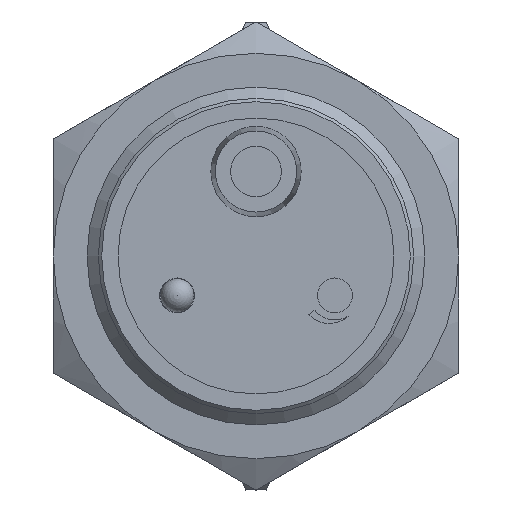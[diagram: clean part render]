
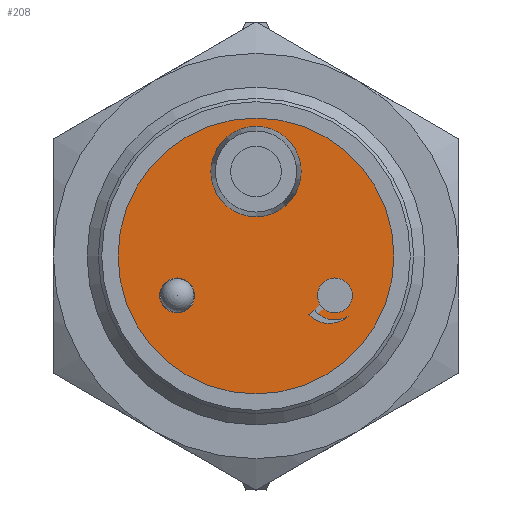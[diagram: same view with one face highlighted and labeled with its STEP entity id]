
A CAD part, left-side view. The second image highlights one B-rep face of the part: STEP entity #208.
In plain terms, the highlighted planar face has unit normal (-1, 0, 0).
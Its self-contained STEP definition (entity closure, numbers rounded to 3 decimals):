
#208 = ADVANCED_FACE( '', ( #296, #297, #298, #299, #300 ), #301, .F. );
#296 = FACE_BOUND( '', #426, .T. );
#297 = FACE_BOUND( '', #427, .T. );
#298 = FACE_OUTER_BOUND( '', #428, .T. );
#299 = FACE_BOUND( '', #429, .T. );
#300 = FACE_BOUND( '', #430, .T. );
#301 = PLANE( '', #431 );
#426 = EDGE_LOOP( '', ( #708 ) );
#427 = EDGE_LOOP( '', ( #709, #710, #711 ) );
#428 = EDGE_LOOP( '', ( #712 ) );
#429 = EDGE_LOOP( '', ( #713 ) );
#430 = EDGE_LOOP( '', ( #714 ) );
#431 = AXIS2_PLACEMENT_3D( '', #715, #716, #717 );
#708 = ORIENTED_EDGE( '', *, *, #900, .F. );
#709 = ORIENTED_EDGE( '', *, *, #901, .T. );
#710 = ORIENTED_EDGE( '', *, *, #902, .T. );
#711 = ORIENTED_EDGE( '', *, *, #903, .T. );
#712 = ORIENTED_EDGE( '', *, *, #904, .F. );
#713 = ORIENTED_EDGE( '', *, *, #905, .F. );
#714 = ORIENTED_EDGE( '', *, *, #906, .T. );
#715 = CARTESIAN_POINT( '', ( -71.1, 0., 0. ) );
#716 = DIRECTION( '', ( 1., 0., 0. ) );
#717 = DIRECTION( '', ( 0., 0., -1. ) );
#900 = EDGE_CURVE( '', #1032, #1032, #1033, .T. );
#901 = EDGE_CURVE( '', #1034, #1035, #1036, .T. );
#902 = EDGE_CURVE( '', #1035, #1037, #1038, .T. );
#903 = EDGE_CURVE( '', #1037, #1034, #1039, .T. );
#904 = EDGE_CURVE( '', #1040, #1040, #1041, .T. );
#905 = EDGE_CURVE( '', #1042, #1042, #1043, .F. );
#906 = EDGE_CURVE( '', #1044, #1044, #1045, .T. );
#1032 = VERTEX_POINT( '', #1369 );
#1033 = CIRCLE( '', #1370, 1.55 );
#1034 = VERTEX_POINT( '', #1371 );
#1035 = VERTEX_POINT( '', #1372 );
#1036 = LINE( '', #1373, #1374 );
#1037 = VERTEX_POINT( '', #1375 );
#1038 = CIRCLE( '', #1376, 2.187 );
#1039 = CIRCLE( '', #1377, 2.5 );
#1040 = VERTEX_POINT( '', #1378 );
#1041 = CIRCLE( '', #1379, 12.25 );
#1042 = VERTEX_POINT( '', #1380 );
#1043 = CIRCLE( '', #1381, 4.009 );
#1044 = VERTEX_POINT( '', #1382 );
#1045 = CIRCLE( '', #1383, 1.55 );
#1369 = CARTESIAN_POINT( '', ( -71.1, -5.45, -3.5 ) );
#1370 = AXIS2_PLACEMENT_3D( '', #1523, #1524, #1525 );
#1371 = CARTESIAN_POINT( '', ( -71.1, -4.682, -5.22 ) );
#1372 = CARTESIAN_POINT( '', ( -71.1, -5.244, -4.803 ) );
#1373 = CARTESIAN_POINT( '', ( -71.1, -4.682, -5.22 ) );
#1374 = VECTOR( '', #1526, 1000. );
#1375 = CARTESIAN_POINT( '', ( -71.1, -8.181, -5.341 ) );
#1376 = AXIS2_PLACEMENT_3D( '', #1527, #1528, #1529 );
#1377 = AXIS2_PLACEMENT_3D( '', #1530, #1531, #1532 );
#1378 = CARTESIAN_POINT( '', ( -71.1, 0., 12.25 ) );
#1379 = AXIS2_PLACEMENT_3D( '', #1533, #1534, #1535 );
#1380 = CARTESIAN_POINT( '', ( -71.1, 0., 3.491 ) );
#1381 = AXIS2_PLACEMENT_3D( '', #1536, #1537, #1538 );
#1382 = CARTESIAN_POINT( '', ( -71.1, 8.55, -3.5 ) );
#1383 = AXIS2_PLACEMENT_3D( '', #1539, #1540, #1541 );
#1523 = CARTESIAN_POINT( '', ( -71.1, -7., -3.5 ) );
#1524 = DIRECTION( '', ( -1., 0., 0. ) );
#1525 = DIRECTION( '', ( 0., 1., 0. ) );
#1526 = DIRECTION( '', ( 0., -0.803, 0.596 ) );
#1527 = CARTESIAN_POINT( '', ( -71.1, -7., -3.5 ) );
#1528 = DIRECTION( '', ( -1., 0., 0. ) );
#1529 = DIRECTION( '', ( 0., 1., 0. ) );
#1530 = CARTESIAN_POINT( '', ( -71.1, -6.493, -3.497 ) );
#1531 = DIRECTION( '', ( 1., 0., 0. ) );
#1532 = DIRECTION( '', ( 0., 1., 0. ) );
#1533 = CARTESIAN_POINT( '', ( -71.1, 0., 0. ) );
#1534 = DIRECTION( '', ( 1., 0., 0. ) );
#1535 = DIRECTION( '', ( 0., 0., 1. ) );
#1536 = CARTESIAN_POINT( '', ( -71.1, 0., 7.5 ) );
#1537 = DIRECTION( '', ( 1., 0., 0. ) );
#1538 = DIRECTION( '', ( 0., 0., -1. ) );
#1539 = CARTESIAN_POINT( '', ( -71.1, 7., -3.5 ) );
#1540 = DIRECTION( '', ( 1., 0., 0. ) );
#1541 = DIRECTION( '', ( 0., 1., 0. ) );
